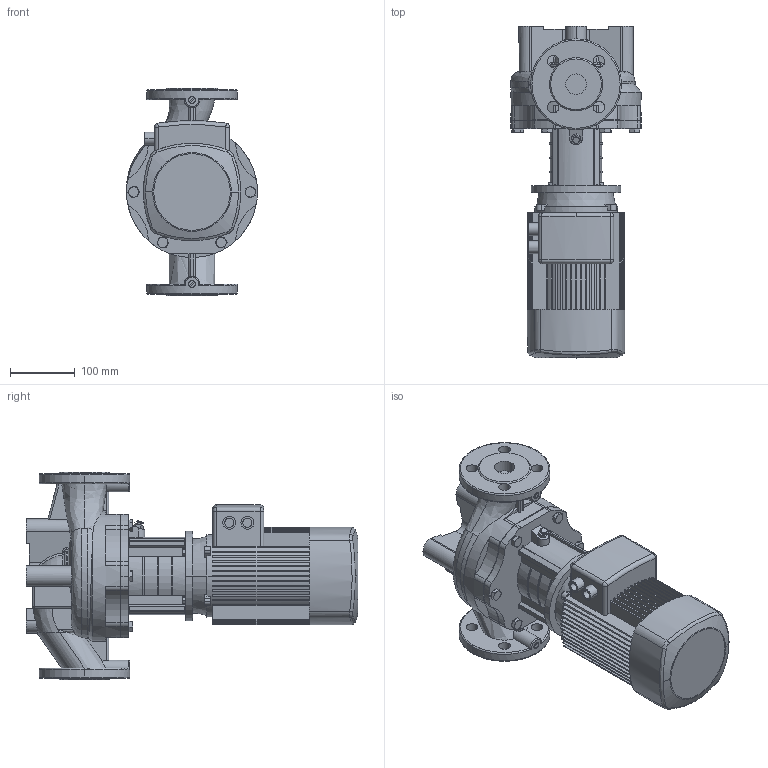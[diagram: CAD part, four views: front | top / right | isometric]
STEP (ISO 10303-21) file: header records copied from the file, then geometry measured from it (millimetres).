
FILE_DESCRIPTION (( 'STEP AP203' ), '1' );
FILE_NAME ('TD32-14G／2.STEP', '2026-09-04T08:47:16', ( '' ), ( '' ), 'SwSTEP 2.0', 'SolidWorks 2020', '' );
FILE_SCHEMA (( 'CONFIG_CONTROL_DESIGN' ));
Products named in the file (1): TD32-14Gㄞ2
Bounding box: 202.06 x 512 x 320 mm (x, y, z)
Volume: 9554725.3 mm3; surface area: 698361.9 mm2
Topology: 1 solids, 8 shells, 1008 faces, 2672 edges, 1717 vertices
Faces by surface type: plane 516, cylinder 274, cone 107, torus 57, bspline 44, sphere 10
Entity records: 40958 total; most frequent: CARTESIAN_POINT 15995, ORIENTED_EDGE 5328, DIRECTION 5178, EDGE_CURVE 2664, AXIS2_PLACEMENT_3D 1986, VERTEX_POINT 1717, VECTOR 1206, LINE 1206
